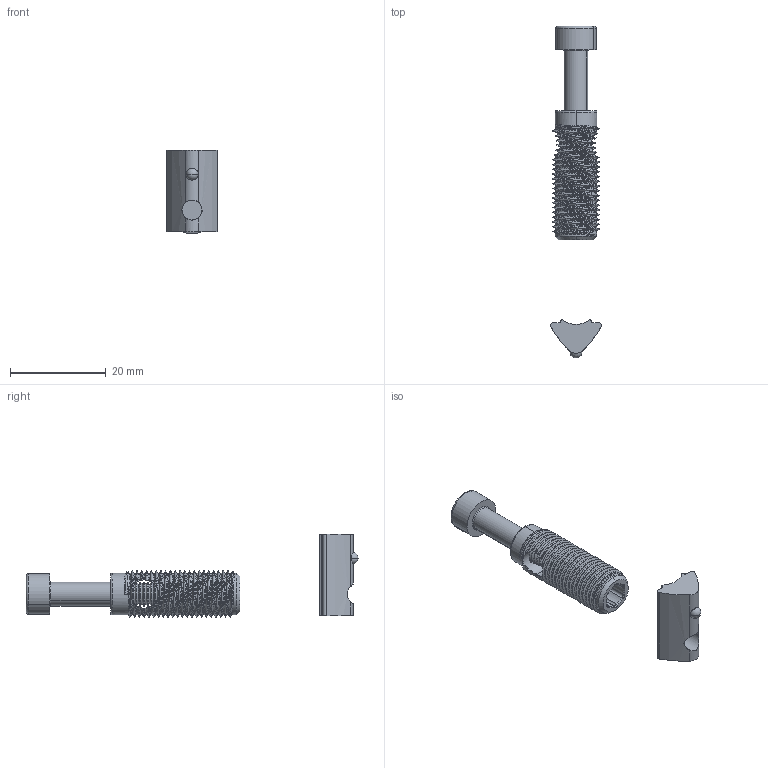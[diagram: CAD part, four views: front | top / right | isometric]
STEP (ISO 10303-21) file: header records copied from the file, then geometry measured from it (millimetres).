
FILE_DESCRIPTION (( 'STEP AP203' ), '1' );
FILE_NAME ('390006_Eindrehverbinder-Satz 6, einseitig.step', '2022-04-14T09:11:39', ( '' ), ( '' ), 'SwSTEP 2.0', 'SolidWorks 2021', '' );
FILE_SCHEMA (( 'CONFIG_CONTROL_DESIGN' ));
Length unit declared in the file: millimetre
Products named in the file (4): 354025 Nutenstein 6 M5 einschwenkbar mit Kugel und Steg; 390006 Hülse; DIN 912 M5 x 35 --- 22S_DIN 912 M5 x 35 --- 22S; 390006_Eindrehverbinder-Satz 6, einseitig
Assembly tree (3 placements, depth 2):
  390006_Eindrehverbinder-Satz 6, einseitig
    390006 Hülse
    DIN 912 M5 x 35 --- 22S_DIN 912 M5 x 35 --- 22S
    354025 Nutenstein 6 M5 einschwenkbar mit Kugel und Steg
Bounding box: 10.6 x 69.39 x 17.45 mm (x, y, z)
Volume: 2562.1 mm3; surface area: 3276 mm2
Topology: 3 solids, 3 shells, 390 faces, 1054 edges, 667 vertices
Faces by surface type: cylinder 143, cone 139, bspline 53, plane 47, torus 6, sphere 2
Entity records: 86445 total; most frequent: CARTESIAN_POINT 76771, ORIENTED_EDGE 2104, DIRECTION 1806, EDGE_CURVE 1052, AXIS2_PLACEMENT_3D 746, VERTEX_POINT 667, CIRCLE 403, EDGE_LOOP 397
